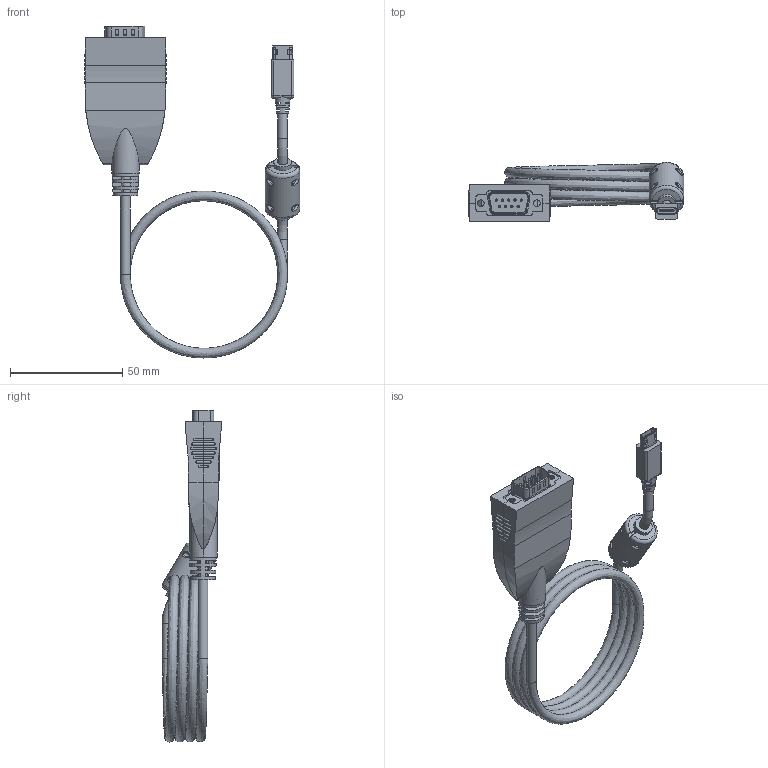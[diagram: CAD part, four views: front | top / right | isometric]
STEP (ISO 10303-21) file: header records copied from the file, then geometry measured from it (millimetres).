
FILE_DESCRIPTION(/* description */ (''),/* implementation_level */ '2;1');
FILE_NAME(/* name */ '/Users/leo/Desktop/Coolgear May/GM-FTDI2-LED-2/GM-FTDI2-LED-C Model3D LPV1.step',/* time_stamp */ '2021-06-01T15:57:34-04:00',/* author */ (''),/* organization */ (''),/* preprocessor_version */ 'ST-DEVELOPER v18.1',/* originating_system */ 'Autodesk Translation Framework v10.9.0.1377',/* authorisation */ '');
FILE_SCHEMA (('AUTOMOTIVE_DESIGN { 1 0 10303 214 3 1 1 }'));
Length unit declared in the file: millimetre
Products named in the file (1): FusionComponent
Bounding box: 96.05 x 26.54 x 147.77 mm (x, y, z)
Volume: 30723.3 mm3; surface area: 33012.1 mm2
Topology: 10 solids, 14 shells, 2502 faces, 7160 edges, 4650 vertices
Faces by surface type: bspline 1115, cylinder 744, plane 574, torus 34, sphere 29, cone 6
Full cylindrical faces by diameter (mm): 0.9 x9, 1 x18, 1.5 x19, 3 x2, 4.3 x8, 4.4 x2, 8 x2, 10 x2, 10.4 x2, 15.4 x1
Entity records: 93371 total; most frequent: CARTESIAN_POINT 29770, ORIENTED_EDGE 14194, DIRECTION 13216, EDGE_CURVE 7097, AXIS2_PLACEMENT_3D 5042, VERTEX_POINT 4646, CIRCLE 3631, LINE 3132
